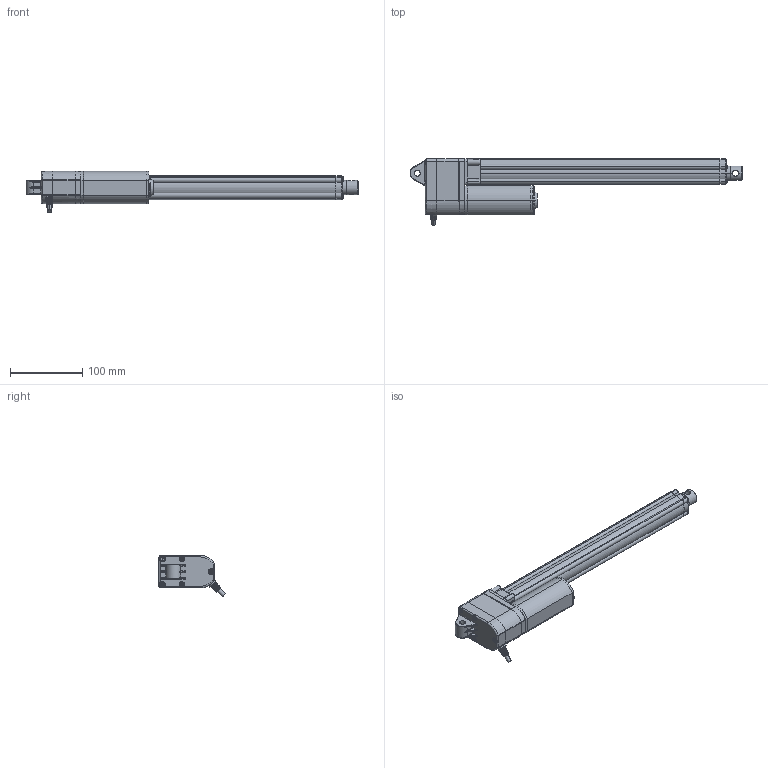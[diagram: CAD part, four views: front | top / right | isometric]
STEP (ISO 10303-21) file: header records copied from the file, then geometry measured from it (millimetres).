
FILE_DESCRIPTION(('STEP AP203'),'1');
FILE_NAME('dj809f1300440f2f011r01111111a01230620085948.stp','2025-06-20T08:59:52',('TraceParts'),('TraceParts S.A.'),'Spatial InterOp 3D',' ',' ');
FILE_SCHEMA(('CONFIG_CONTROL_DESIGN'));
Length unit declared in the file: millimetre
Products named in the file (1): 1
Bounding box: 459.11 x 92.14 x 56.99 mm (x, y, z)
Volume: 686008.1 mm3; surface area: 85651.5 mm2
Topology: 1 solids, 1 shells, 760 faces, 1998 edges, 1246 vertices
Faces by surface type: plane 305, cylinder 202, bspline 121, torus 74, cone 47, sphere 11
Entity records: 29954 total; most frequent: CARTESIAN_POINT 12178, ORIENTED_EDGE 3964, DIRECTION 3476, EDGE_CURVE 1982, AXIS2_PLACEMENT_3D 1323, VERTEX_POINT 1246, LINE 830, VECTOR 830
